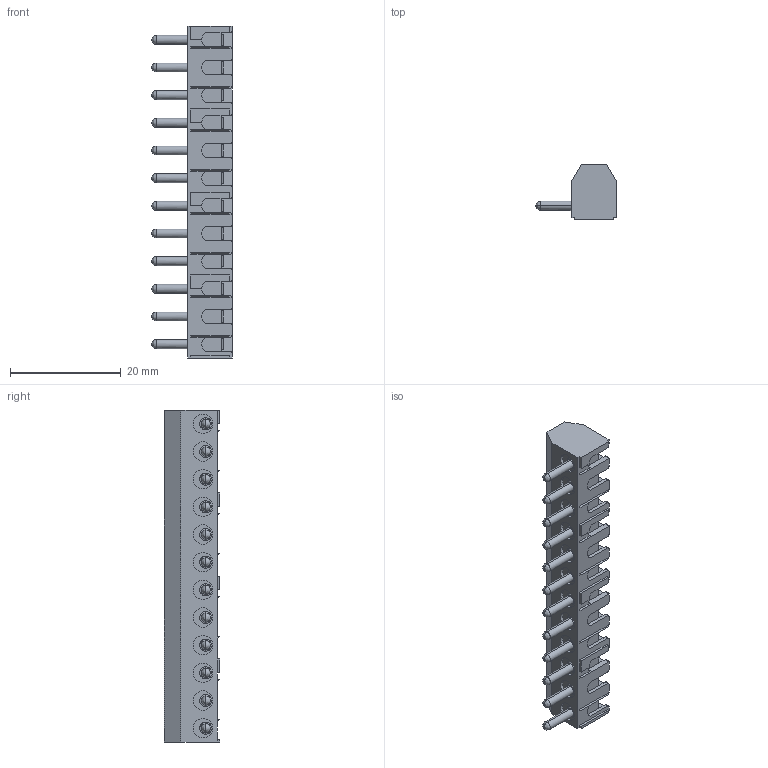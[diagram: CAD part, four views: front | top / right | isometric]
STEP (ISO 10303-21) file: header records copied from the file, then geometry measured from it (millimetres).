
FILE_DESCRIPTION (( 'STEP AP214' ), '1' );
FILE_NAME ('951-SV-DS-12.STEP', '2008-03-17T01:33:04', ( ' ' ), ( '' ), 'SwSTEP 2.0', 'SolidWorks 2007', '' );
FILE_SCHEMA (( 'AUTOMOTIVE_DESIGN' ));
Length unit declared in the file: millimetre
Products named in the file (1): 951-SV-DS-12
Bounding box: 14.5 x 10 x 60 mm (x, y, z)
Volume: 3706 mm3; surface area: 3727.2 mm2
Topology: 1 solids, 1 shells, 880 faces, 2766 edges, 1804 vertices
Faces by surface type: plane 564, cylinder 196, bspline 96, cone 24
Entity records: 34517 total; most frequent: CARTESIAN_POINT 10627, ORIENTED_EDGE 5484, DIRECTION 4492, EDGE_CURVE 2742, VERTEX_POINT 1804, VECTOR 1666, LINE 1666, AXIS2_PLACEMENT_3D 1413
